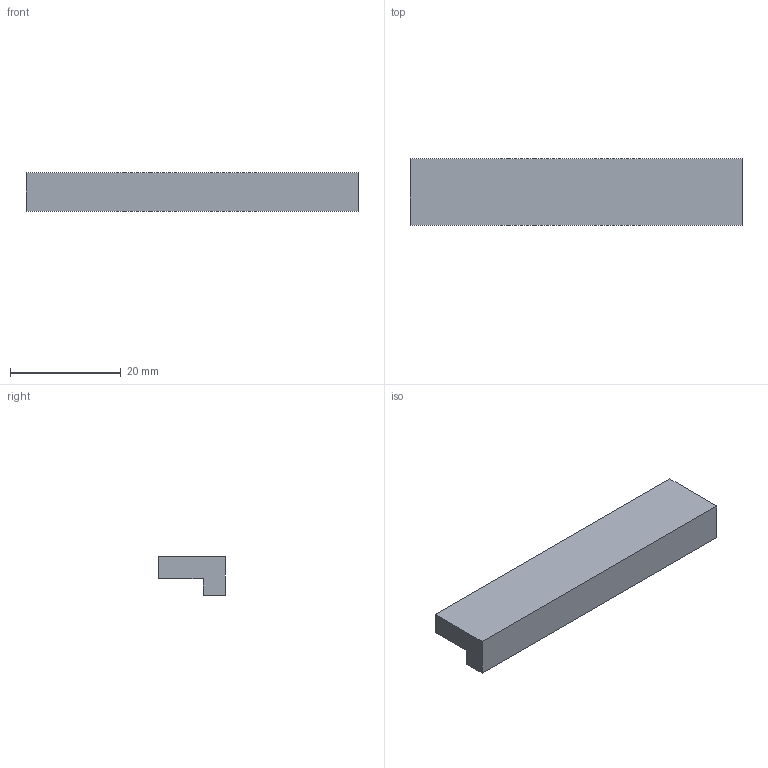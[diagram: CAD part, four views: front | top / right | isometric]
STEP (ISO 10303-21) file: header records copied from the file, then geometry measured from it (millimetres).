
FILE_DESCRIPTION(('FreeCAD Model'),'2;1');
FILE_NAME('Open CASCADE Shape Model','2026-01-10T18:20:06',(''),(''), 'Open CASCADE STEP processor 7.8','FreeCAD','Unknown');
FILE_SCHEMA(('AUTOMOTIVE_DESIGN { 1 0 10303 214 1 1 1 1 }'));
Length unit declared in the file: millimetre
Products named in the file (1): Body009
Bounding box: 60 x 12 x 7 mm (x, y, z)
Volume: 3600 mm3; surface area: 2400 mm2
Topology: 1 solids, 1 shells, 8 faces, 18 edges, 12 vertices
Faces by surface type: plane 8
Entity records: 244 total; most frequent: CARTESIAN_POINT 39, DIRECTION 36, ORIENTED_EDGE 36, EDGE_CURVE 18, LINE 18, VECTOR 18, VERTEX_POINT 12, AXIS2_PLACEMENT_3D 9
